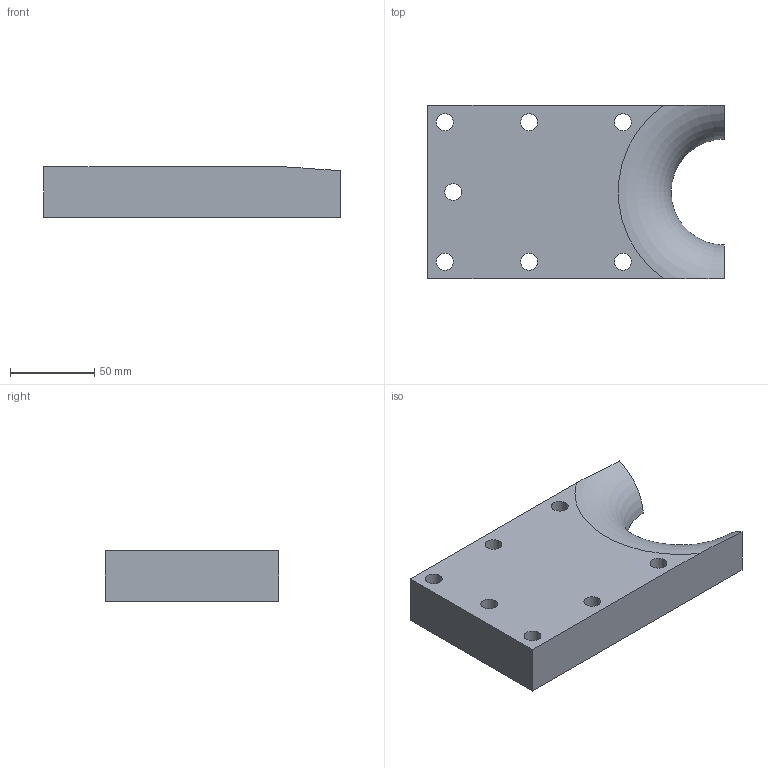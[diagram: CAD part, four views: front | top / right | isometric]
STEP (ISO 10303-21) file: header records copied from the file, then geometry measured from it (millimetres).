
FILE_DESCRIPTION(/* description */ (''),/* implementation_level */ '2;1');
FILE_NAME(/* name */ 'D:\Dropbox\projects\lazerdome\design\dome\dome-v2\pole-die\pole-die.stp',/* time_stamp */ '2016-03-07T22:27:04+00:00',/* author */ ('chendy'),/* organization */ (''),/* preprocessor_version */ 'ST-DEVELOPER v16.1',/* originating_system */ 'Autodesk Inventor 2016',/* authorisation */ '');
FILE_SCHEMA (('AUTOMOTIVE_DESIGN { 1 0 10303 214 3 1 1 }'));
Length unit declared in the file: millimetre
Products named in the file (1): pole-die
Bounding box: 175.6 x 102.8 x 30 mm (x, y, z)
Volume: 453432.9 mm3; surface area: 54681.6 mm2
Topology: 1 solids, 1 shells, 15 faces, 39 edges, 26 vertices
Faces by surface type: plane 7, cylinder 7, torus 1
Full cylindrical faces by diameter (mm): 10 x7
Entity records: 506 total; most frequent: CARTESIAN_POINT 96, DIRECTION 80, ORIENTED_EDGE 64, EDGE_LOOP 36, AXIS2_PLACEMENT_3D 34, EDGE_CURVE 32, VERTEX_POINT 26, FACE_BOUND 21
